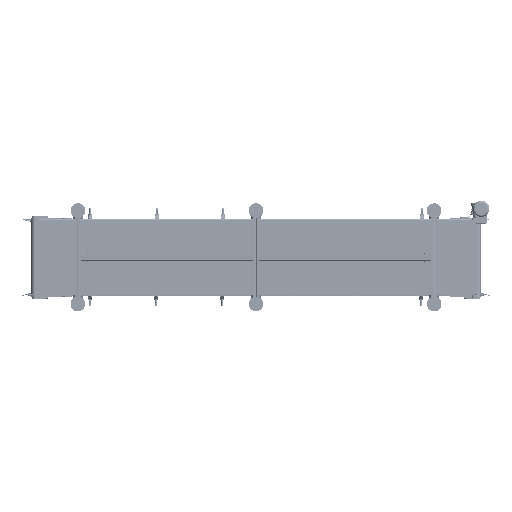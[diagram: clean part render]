
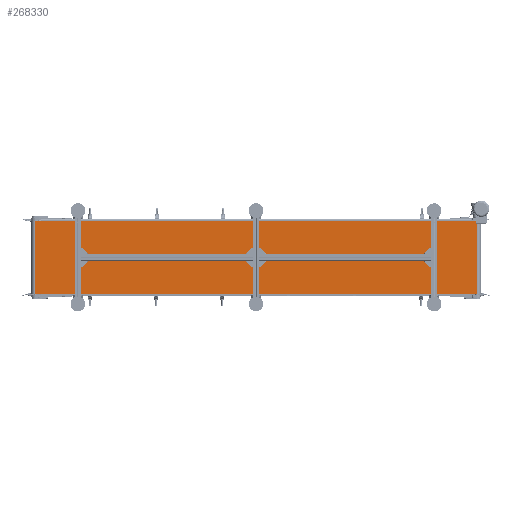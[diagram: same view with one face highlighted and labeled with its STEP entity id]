
A CAD part, front view. The second image highlights one B-rep face of the part: STEP entity #268330.
In plain terms, the highlighted planar face has unit normal (0, -1, 0).
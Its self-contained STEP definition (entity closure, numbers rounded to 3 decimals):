
#21132 = CARTESIAN_POINT ( 'NONE',  ( -1500., -27., 250. ) ) ;
#26128 = VERTEX_POINT ( 'NONE', #116538 ) ;
#27333 = ORIENTED_EDGE ( 'NONE', *, *, #194058, .F. ) ;
#41731 = EDGE_LOOP ( 'NONE', ( #163585, #104905, #27333, #240417 ) ) ;
#51594 = FACE_OUTER_BOUND ( 'NONE', #41731, .T. ) ;
#52236 = CARTESIAN_POINT ( 'NONE',  ( -1500., -27., 250. ) ) ;
#54275 = DIRECTION ( 'NONE',  ( 0., 1., 0. ) ) ;
#55684 = DIRECTION ( 'NONE',  ( 1., 0., 0. ) ) ;
#60643 = CARTESIAN_POINT ( 'NONE',  ( 1500., -27., -250. ) ) ;
#74596 = DIRECTION ( 'NONE',  ( 0., 0., 1. ) ) ;
#75927 = CARTESIAN_POINT ( 'NONE',  ( -1500., -27., 250. ) ) ;
#87594 = VERTEX_POINT ( 'NONE', #139252 ) ;
#92357 = PLANE ( 'NONE',  #157598 ) ;
#98387 = VECTOR ( 'NONE', #228949, 1000. ) ;
#104905 = ORIENTED_EDGE ( 'NONE', *, *, #251319, .F. ) ;
#116538 = CARTESIAN_POINT ( 'NONE',  ( 1500., -27., 250. ) ) ;
#138585 = EDGE_CURVE ( 'NONE', #214009, #87594, #157498, .T. ) ;
#139252 = CARTESIAN_POINT ( 'NONE',  ( -1500., -27., -250. ) ) ;
#144819 = CARTESIAN_POINT ( 'NONE',  ( 1500., -27., 250. ) ) ;
#146795 = VERTEX_POINT ( 'NONE', #60643 ) ;
#153377 = VECTOR ( 'NONE', #201592, 1000. ) ;
#153501 = CARTESIAN_POINT ( 'NONE',  ( -1500., -27., 250. ) ) ;
#157498 = LINE ( 'NONE', #75927, #234440 ) ;
#157580 = CARTESIAN_POINT ( 'NONE',  ( -1500., -27., -250. ) ) ;
#157598 = AXIS2_PLACEMENT_3D ( 'NONE', #153501, #54275, #74596 ) ;
#158850 = DIRECTION ( 'NONE',  ( 0., 0., -1. ) ) ;
#158927 = LINE ( 'NONE', #157580, #237941 ) ;
#160835 = LINE ( 'NONE', #52236, #153377 ) ;
#163585 = ORIENTED_EDGE ( 'NONE', *, *, #240567, .T. ) ;
#194058 = EDGE_CURVE ( 'NONE', #214009, #26128, #160835, .T. ) ;
#201592 = DIRECTION ( 'NONE',  ( 1., 0., 0. ) ) ;
#214009 = VERTEX_POINT ( 'NONE', #21132 ) ;
#228949 = DIRECTION ( 'NONE',  ( 0., 0., -1. ) ) ;
#234440 = VECTOR ( 'NONE', #158850, 1000. ) ;
#237941 = VECTOR ( 'NONE', #55684, 1000. ) ;
#240417 = ORIENTED_EDGE ( 'NONE', *, *, #138585, .T. ) ;
#240567 = EDGE_CURVE ( 'NONE', #87594, #146795, #158927, .T. ) ;
#245330 = LINE ( 'NONE', #144819, #98387 ) ;
#251319 = EDGE_CURVE ( 'NONE', #26128, #146795, #245330, .T. ) ;
#268330 = ADVANCED_FACE ( 'NONE', ( #51594 ), #92357, .F. ) ;
